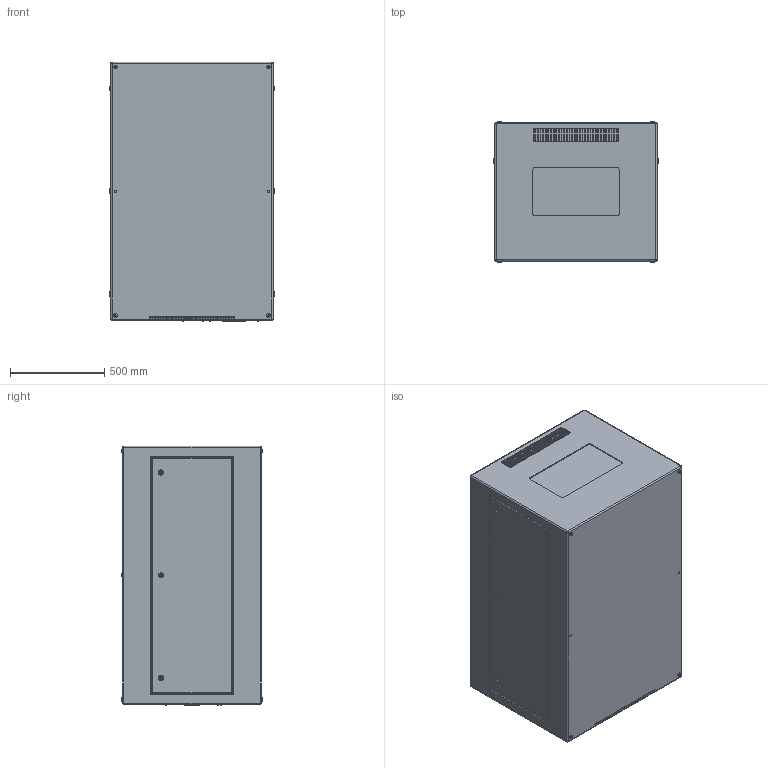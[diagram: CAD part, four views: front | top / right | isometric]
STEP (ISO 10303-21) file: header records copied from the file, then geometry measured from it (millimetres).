
FILE_DESCRIPTION (( 'STEP AP214' ), '1' );
FILE_NAME ('Zen 57.210.L R11 Landscape Hush Enclosure.STEP', '2021-04-23T00:26:27', ( '' ), ( '' ), 'SwSTEP 2.0', 'SolidWorks 2020', '' );
FILE_SCHEMA (( 'AUTOMOTIVE_DESIGN' ));
Length unit declared in the file: inch
Products named in the file (1): Zen 57.210.L R11 Landscape Hush Enclosure
Bounding box: 876.3 x 751.33 x 1379.22 mm (x, y, z)
Volume: 870430001.2 mm3; surface area: 6197605.2 mm2
Topology: 1 solids, 1 shells, 1125 faces, 2838 edges, 1746 vertices
Faces by surface type: plane 515, cylinder 484, sphere 74, torus 52
Entity records: 36313 total; most frequent: DIRECTION 6040, CARTESIAN_POINT 5684, ORIENTED_EDGE 5528, EDGE_CURVE 2764, AXIS2_PLACEMENT_3D 2166, VERTEX_POINT 1746, VECTOR 1708, LINE 1708
